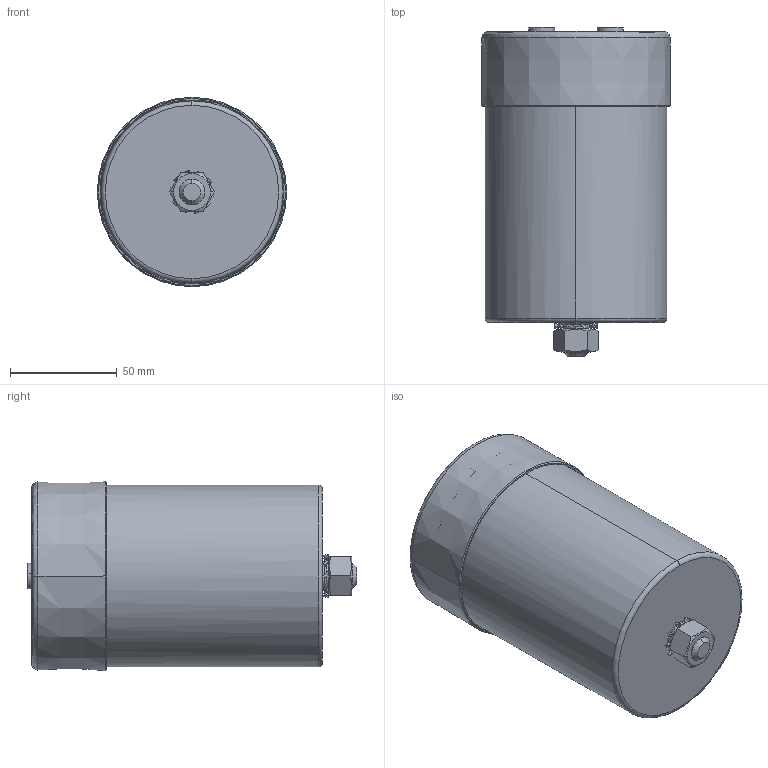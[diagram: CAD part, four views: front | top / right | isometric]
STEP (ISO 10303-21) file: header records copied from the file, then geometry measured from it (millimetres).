
FILE_DESCRIPTION (( 'STEP AP203' ), '1' );
FILE_NAME ('B25620Cx_85x136_138.STEP', '2021-07-01T02:28:22', ( '' ), ( '' ), 'SwSTEP 2.0', 'SolidWorks 2017', '' );
FILE_SCHEMA (( 'CONFIG_CONTROL_DESIGN' ));
Length unit declared in the file: millimetre
Products named in the file (1): B25620Cx_85x136_138
Bounding box: 88.5 x 154 x 88.5 mm (x, y, z)
Volume: 78382 mm3; surface area: 121682.5 mm2
Topology: 4 solids, 7 shells, 401 faces, 1027 edges, 642 vertices
Faces by surface type: bspline 124, cylinder 114, plane 97, cone 52, torus 14
Entity records: 15845 total; most frequent: CARTESIAN_POINT 6858, ORIENTED_EDGE 2026, DIRECTION 1621, EDGE_CURVE 1013, VERTEX_POINT 642, AXIS2_PLACEMENT_3D 642, EDGE_LOOP 443, ADVANCED_FACE 401
